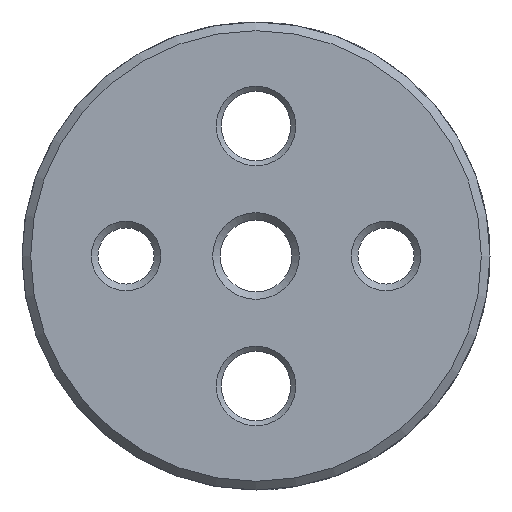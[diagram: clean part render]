
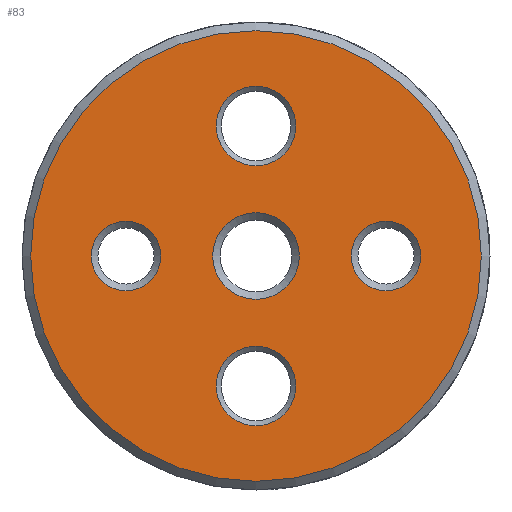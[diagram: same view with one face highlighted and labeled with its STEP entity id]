
A CAD part, front view. The second image highlights one B-rep face of the part: STEP entity #83.
In plain terms, the highlighted planar face has unit normal (0, -1, 0).
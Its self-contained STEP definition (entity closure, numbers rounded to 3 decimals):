
#83 = ADVANCED_FACE( '', ( #130, #131, #132, #133, #134, #135 ), #136, .F. );
#130 = FACE_BOUND( '', #220, .T. );
#131 = FACE_BOUND( '', #221, .T. );
#132 = FACE_BOUND( '', #222, .T. );
#133 = FACE_BOUND( '', #223, .T. );
#134 = FACE_BOUND( '', #224, .T. );
#135 = FACE_OUTER_BOUND( '', #225, .T. );
#136 = PLANE( '', #226 );
#220 = EDGE_LOOP( '', ( #357 ) );
#221 = EDGE_LOOP( '', ( #358 ) );
#222 = EDGE_LOOP( '', ( #359 ) );
#223 = EDGE_LOOP( '', ( #360 ) );
#224 = EDGE_LOOP( '', ( #361 ) );
#225 = EDGE_LOOP( '', ( #362 ) );
#226 = AXIS2_PLACEMENT_3D( '', #363, #364, #365 );
#357 = ORIENTED_EDGE( '', *, *, #527, .F. );
#358 = ORIENTED_EDGE( '', *, *, #528, .F. );
#359 = ORIENTED_EDGE( '', *, *, #529, .F. );
#360 = ORIENTED_EDGE( '', *, *, #530, .F. );
#361 = ORIENTED_EDGE( '', *, *, #531, .F. );
#362 = ORIENTED_EDGE( '', *, *, #532, .T. );
#363 = CARTESIAN_POINT( '', ( 13., 0., 0. ) );
#364 = DIRECTION( '', ( 0., 1., 0. ) );
#365 = DIRECTION( '', ( 0., 0., 1. ) );
#527 = EDGE_CURVE( '', #611, #611, #612, .T. );
#528 = EDGE_CURVE( '', #613, #613, #614, .F. );
#529 = EDGE_CURVE( '', #615, #615, #616, .T. );
#530 = EDGE_CURVE( '', #617, #617, #618, .T. );
#531 = EDGE_CURVE( '', #619, #619, #620, .T. );
#532 = EDGE_CURVE( '', #621, #621, #622, .T. );
#611 = VERTEX_POINT( '', #818 );
#612 = CIRCLE( '', #819, 2.5 );
#613 = VERTEX_POINT( '', #820 );
#614 = CIRCLE( '', #821, 2. );
#615 = VERTEX_POINT( '', #822 );
#616 = CIRCLE( '', #823, 2.3 );
#617 = VERTEX_POINT( '', #824 );
#618 = CIRCLE( '', #825, 2.3 );
#619 = VERTEX_POINT( '', #826 );
#620 = CIRCLE( '', #827, 2. );
#621 = VERTEX_POINT( '', #828 );
#622 = CIRCLE( '', #829, 13. );
#818 = CARTESIAN_POINT( '', ( 0., 0., -2.5 ) );
#819 = AXIS2_PLACEMENT_3D( '', #931, #932, #933 );
#820 = CARTESIAN_POINT( '', ( 7.5, 0., 2. ) );
#821 = AXIS2_PLACEMENT_3D( '', #934, #935, #936 );
#822 = CARTESIAN_POINT( '', ( 0., 0., 5.2 ) );
#823 = AXIS2_PLACEMENT_3D( '', #937, #938, #939 );
#824 = CARTESIAN_POINT( '', ( 0., 0., -9.8 ) );
#825 = AXIS2_PLACEMENT_3D( '', #940, #941, #942 );
#826 = CARTESIAN_POINT( '', ( -7.5, 0., -2. ) );
#827 = AXIS2_PLACEMENT_3D( '', #943, #944, #945 );
#828 = CARTESIAN_POINT( '', ( 0., 0., -13. ) );
#829 = AXIS2_PLACEMENT_3D( '', #946, #947, #948 );
#931 = CARTESIAN_POINT( '', ( 0., 0., 0. ) );
#932 = DIRECTION( '', ( 0., -1., 0. ) );
#933 = DIRECTION( '', ( 0., 0., -1. ) );
#934 = CARTESIAN_POINT( '', ( 7.5, 0., 0. ) );
#935 = DIRECTION( '', ( 0., 1., 0. ) );
#936 = DIRECTION( '', ( 0., 0., 1. ) );
#937 = CARTESIAN_POINT( '', ( 0., 0., 7.5 ) );
#938 = DIRECTION( '', ( 0., -1., 0. ) );
#939 = DIRECTION( '', ( 0., 0., -1. ) );
#940 = CARTESIAN_POINT( '', ( 0., 0., -7.5 ) );
#941 = DIRECTION( '', ( 0., -1., 0. ) );
#942 = DIRECTION( '', ( 0., 0., -1. ) );
#943 = CARTESIAN_POINT( '', ( -7.5, 0., 0. ) );
#944 = DIRECTION( '', ( 0., -1., 0. ) );
#945 = DIRECTION( '', ( 0., 0., -1. ) );
#946 = CARTESIAN_POINT( '', ( 0., 0., 0. ) );
#947 = DIRECTION( '', ( 0., -1., 0. ) );
#948 = DIRECTION( '', ( 0., 0., -1. ) );
